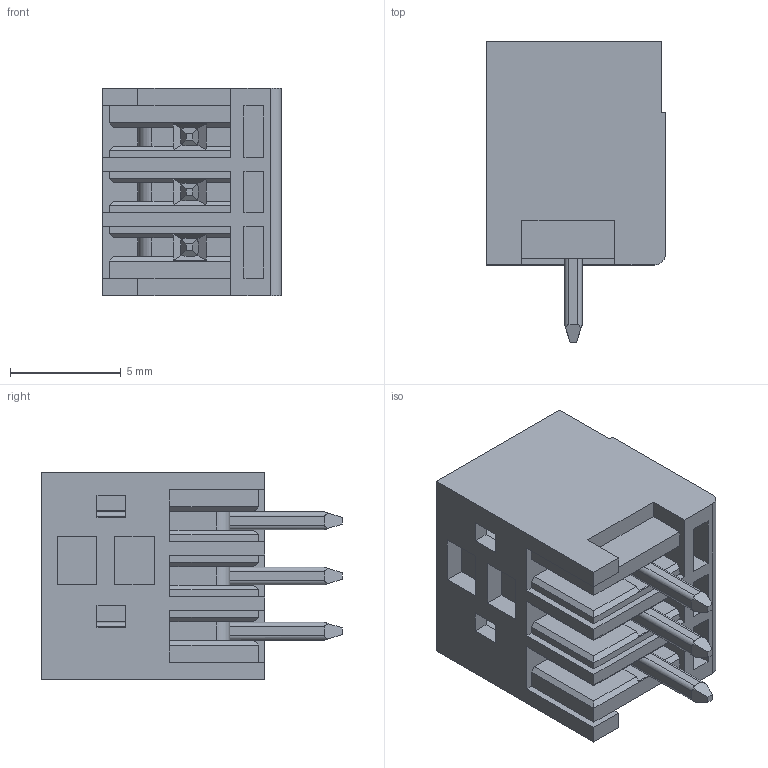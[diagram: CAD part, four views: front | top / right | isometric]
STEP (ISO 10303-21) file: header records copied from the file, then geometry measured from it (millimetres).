
FILE_DESCRIPTION((''),'2;1');
FILE_NAME('3PIN','2020-09-04T',('renkang.li'),(''),'CREO PARAMETRIC BY PTC INC, 2016260','CREO PARAMETRIC BY PTC INC, 2016260','');
FILE_SCHEMA(('CONFIG_CONTROL_DESIGN'));
Length unit declared in the file: millimetre
Products named in the file (1): 3PIN
Bounding box: 8.1 x 13.6 x 9.4 mm (x, y, z)
Volume: 428 mm3; surface area: 1063.9 mm2
Topology: 1 solids, 49 shells, 617 faces, 1447 edges, 940 vertices
Faces by surface type: plane 555, cylinder 52, cone 6, torus 4
Entity records: 17722 total; most frequent: CARTESIAN_POINT 3811, ORIENTED_EDGE 2894, DIRECTION 2597, EDGE_CURVE 1447, VECTOR 1291, LINE 1291, VERTEX_POINT 940, AXIS2_PLACEMENT_3D 653
